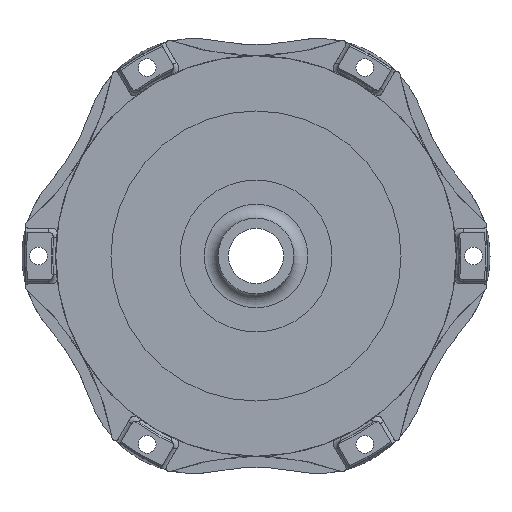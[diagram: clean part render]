
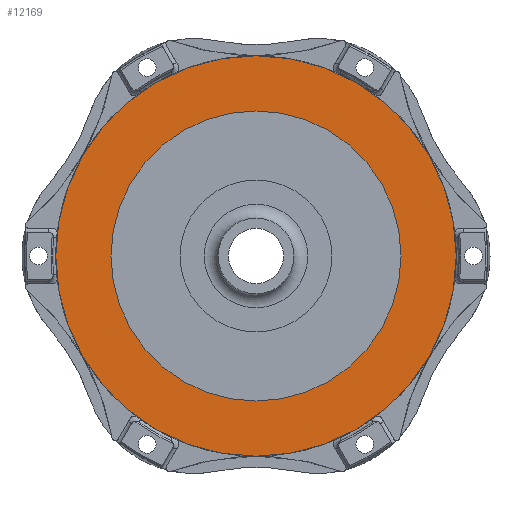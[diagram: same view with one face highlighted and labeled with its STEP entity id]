
A CAD part, left-side view. The second image highlights one B-rep face of the part: STEP entity #12169.
In plain terms, the highlighted planar face has unit normal (-1, 0, 0).
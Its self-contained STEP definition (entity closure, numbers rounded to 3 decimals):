
#1130=CIRCLE('',#13439,92.075);
#1131=CIRCLE('',#13441,66.675);
#3555=ORIENTED_EDGE('',*,*,#6131,.F.);
#3556=ORIENTED_EDGE('',*,*,#6130,.T.);
#6130=EDGE_CURVE('',#7568,#7568,#1130,.T.);
#6131=EDGE_CURVE('',#7569,#7569,#1131,.T.);
#7568=VERTEX_POINT('',#21051);
#7569=VERTEX_POINT('',#21054);
#10174=EDGE_LOOP('',(#3555));
#10175=EDGE_LOOP('',(#3556));
#11044=FACE_BOUND('',#10174,.T.);
#11045=FACE_BOUND('',#10175,.T.);
#11532=PLANE('',#13440);
#12169=ADVANCED_FACE('',(#11044,#11045),#11532,.F.);
#13439=AXIS2_PLACEMENT_3D('',#21050,#16323,#16324);
#13440=AXIS2_PLACEMENT_3D('',#21052,#16325,#16326);
#13441=AXIS2_PLACEMENT_3D('',#21053,#16327,#16328);
#16323=DIRECTION('',(-1.,0.,0.));
#16324=DIRECTION('',(0.,0.,1.));
#16325=DIRECTION('',(1.,0.,0.));
#16326=DIRECTION('',(0.,0.,-1.));
#16327=DIRECTION('',(-1.,0.,0.));
#16328=DIRECTION('',(0.,0.,1.));
#21050=CARTESIAN_POINT('',(16.891,0.,0.));
#21051=CARTESIAN_POINT('',(16.891,0.,92.075));
#21052=CARTESIAN_POINT('',(16.891,0.,92.075));
#21053=CARTESIAN_POINT('',(16.891,0.,0.));
#21054=CARTESIAN_POINT('',(16.891,0.,66.675));
